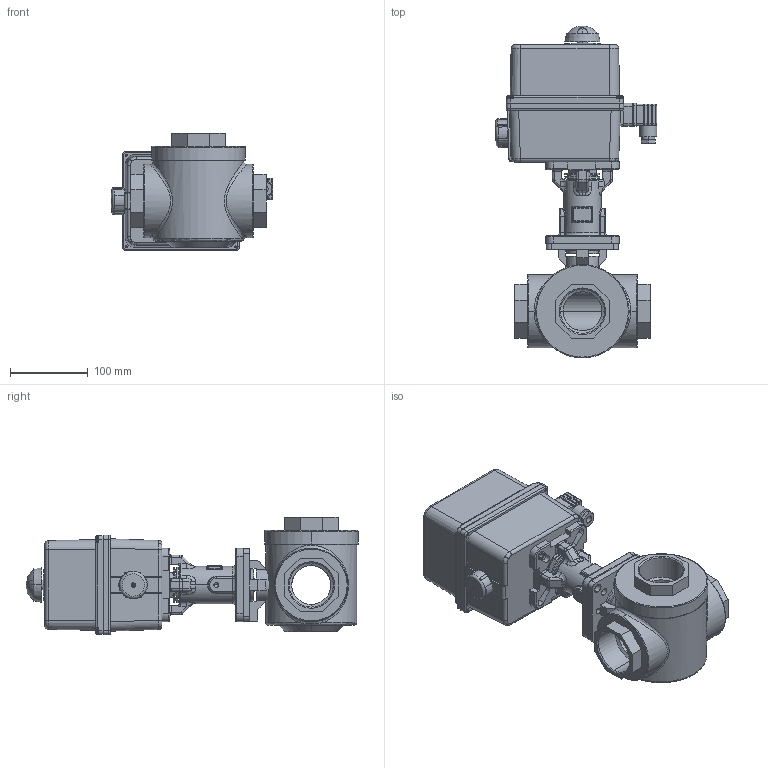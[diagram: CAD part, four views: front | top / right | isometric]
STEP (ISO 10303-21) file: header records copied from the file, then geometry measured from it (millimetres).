
FILE_DESCRIPTION (( 'STEP AP214' ), '1' );
FILE_NAME ('S57D DN50 + ER100 + verl.STEP', '2023-02-24T08:49:24', ( '' ), ( '' ), 'SwSTEP 2.0', 'SolidWorks 2021', '' );
FILE_SCHEMA (( 'AUTOMOTIVE_DESIGN' ));
Length unit declared in the file: millimetre
Products named in the file (31): Moer voor Connector 2; 39G052-24_B239G052-24236.STEP; E5MM-M22_E5MM-M22104001.STEP; 35T8D8-24_E235T8D8-24PTE.STEP; S57D DN50-G2 FB; ER35-60-100 Aandrijving; 35T17B-24_E135T17B-24103.STEP; Warteldoorvoer M20; ER35-60-100; ER35-60-100 Knop 2 - Rond; Connector ECD.1; 35T8M8-24_E235T8M8-24PTE.STEP; ER35-60-100 Knop 1 - Declutch; S57D DN50 + ER100 + verl; A439G-2410403.STEP; ER10-20-35 Connector 2; ER35-60-100 Afdekkap; 35T8U8-24_E235T8U8-24PTE.STEP; 35T044-24_E135T044-24104.STEP; E4A-117VTN.STEP; sheet metal screws_din_Tapping screw DIN 7049-ST3.5x16-C-H-N; 39G5G5-24.STEP; ER10-20-35 Pakking; 305707-30_E2305707-3015G.STEP; ER10-20-35 Connector 1; ER10-20-35 Indicator; cross fh tapping 7976_din_Tapping screw DIN 7982-ST2.9x19-C-H-N; 9ESTEMEX090A BS; 35T808-24_E235T808-24PTE.STEP; Bout M3x30; 35T100-24_E135T100-24104.STEP
Assembly tree (37 placements, depth 5):
  S57D DN50 + ER100 + verl
    S57D DN50-G2 FB
    ER35-60-100
      ER35-60-100 Aandrijving
      ER35-60-100 Afdekkap
      sheet metal screws_din_Tapping screw DIN 7049-ST3.5x16-C-H-N  x4
      ER35-60-100 Knop 1 - Declutch
      cross fh tapping 7976_din_Tapping screw DIN 7982-ST2.9x19-C-H-N
      ER35-60-100 Knop 2 - Rond
      Connector ECD.1
        ER10-20-35 Connector 1
        ER10-20-35 Pakking
        ER10-20-35 Connector 2
        Bout M3x30
        Moer voor Connector 2
      Warteldoorvoer M20
      ER10-20-35 Indicator  x4
    9ESTEMEX090A BS
      A439G-2410403.STEP
        35T808-24_E235T808-24PTE.STEP
          35T8D8-24_E235T8D8-24PTE.STEP
          35T8M8-24_E235T8M8-24PTE.STEP
          35T8U8-24_E235T8U8-24PTE.STEP
        39G052-24_B239G052-24236.STEP
        305707-30_E2305707-3015G.STEP
        39G5G5-24.STEP
        E4A-117VTN.STEP
        E5MM-M22_E5MM-M22104001.STEP
        35T100-24_E135T100-24104.STEP
        35T17B-24_E135T17B-24103.STEP  x2
        35T044-24_E135T044-24104.STEP
Bounding box: 207.09 x 426.3 x 150.9 mm (x, y, z)
Volume: 4185343.7 mm3; surface area: 439359.5 mm2
Topology: 32 solids, 32 shells, 1468 faces, 3720 edges, 2312 vertices
Faces by surface type: plane 589, cylinder 536, cone 142, bspline 135, torus 54, sphere 12
Entity records: 51774 total; most frequent: CARTESIAN_POINT 17767, DIRECTION 6758, ORIENTED_EDGE 6626, EDGE_CURVE 3313, AXIS2_PLACEMENT_3D 2511, VERTEX_POINT 2087, VECTOR 1736, LINE 1736
